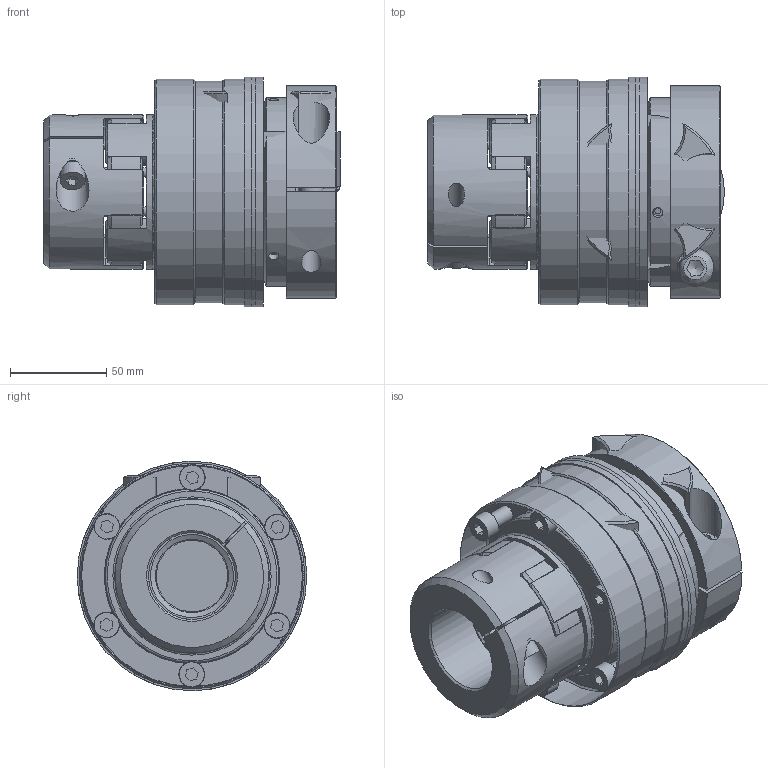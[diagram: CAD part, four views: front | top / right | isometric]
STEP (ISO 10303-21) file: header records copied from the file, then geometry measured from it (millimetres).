
FILE_DESCRIPTION( ( 'Unknown' ), '1' );
FILE_NAME( 'C:/Dokumente und Einstellungen/Sven/Desktop/hp kbk/E-KK/KBK EKK-38-146.stp', 'Unknown', ( 'Unknown' ), ( 'Unknown' ), 'XStep 1.0', 'Unknown', ' ' );
FILE_SCHEMA( ( 'automotive_design' ) );
Length unit declared in the file: millimetre
Products named in the file (17): Assem1; Assem2; Assem3; Zylinderschraube DIN 912_2; ball_bearing_-_6011_0_01; ball_bearing_-_6011_0_02; ball_bearing_-_6011_0_03; Stellring 300; Druckring 300; Flansch 300; a_55; Elastomerflansch 38; Zahnkranz_38_Standard; Kupplung L-K-300 Grundkörper; Klemmnabe 300; schraube_iso_7380-m12x30-12_9; KBE 2 C - 38_Nabe
Bounding box: 153.75 x 119 x 119 mm (x, y, z)
Volume: 2008487.6 mm3; surface area: 525118.4 mm2
Topology: 38 solids, 38 shells, 850 faces, 1930 edges, 1224 vertices
Faces by surface type: cylinder 302, plane 262, cone 231, torus 53, bspline 2
Full cylindrical faces by diameter (mm): 2.5 x4, 3.242 x6, 5 x16, 5.2 x6, 6.647 x12, 8 x9, 8.2 x12, 8.376 x2, 10.106 x2, 10.5 x2, 12 x2, 12.5 x2, 13 x9, 13.2 x12, 17 x2, 19 x2, 20 x2, 38 x4, 40 x2, 52 x2, 55 x7, 60 x2, 66.3 x6, 70 x2, 76 x4, 79.1 x6, 80 x2, 83.5 x2, 88 x2, 90 x7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
Entity records: 11053 total; most frequent: CARTESIAN_POINT 2856, DIRECTION 1766, ORIENTED_EDGE 1410, AXIS2_PLACEMENT_3D 820, EDGE_CURVE 705, EDGE_LOOP 556, VERTEX_POINT 504, FACE_OUTER_BOUND 455
